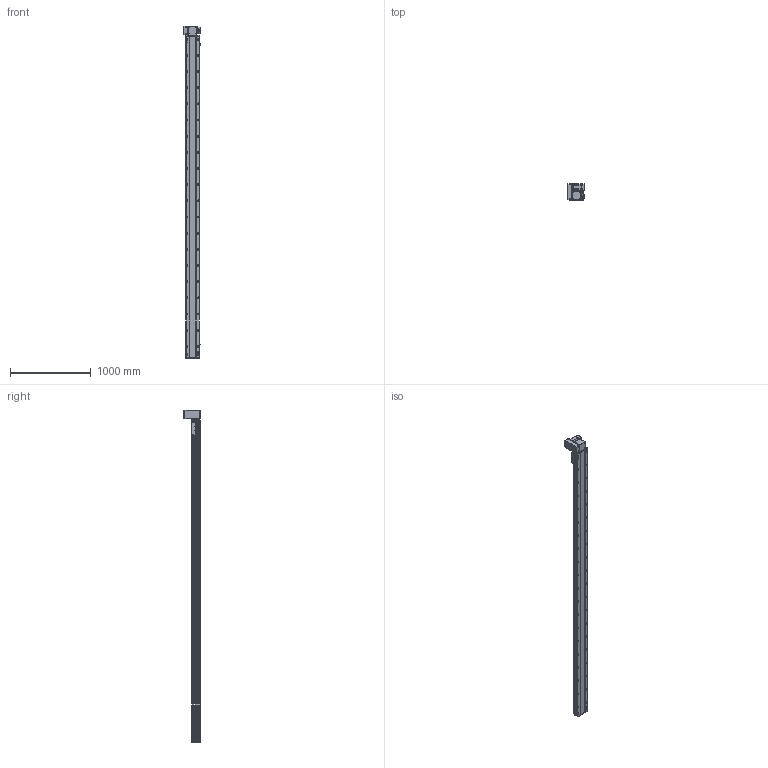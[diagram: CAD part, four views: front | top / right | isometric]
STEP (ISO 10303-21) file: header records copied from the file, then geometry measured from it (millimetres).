
FILE_DESCRIPTION (( 'STEP AP214' ), '1' );
FILE_NAME ('RTB17S-XX-3700-LW-M75-C4.STEP', '2025-12-12T01:24:07', ( '' ), ( '' ), 'SwSTEP 2.0', 'SolidWorks 2018', '' );
FILE_SCHEMA (( 'AUTOMOTIVE_DESIGN' ));
Length unit declared in the file: millimetre
Products named in the file (15): EE672^RTB17S-XX-XX-LW-M75-C4; RTB17-R-011菁釱^RTB17S-XX-XX-LW-M75-C4; RTB17S-L-004-賑釱^RTB17S-賑釱_RTB17S-XX-XX-LW-M75-C4; RTB17S-L-014-T20-P75--々湍釱^RTB17S-LW-々湍釱蚾饜-750W_RTB17S-XX-XX-LW-M75-C4; RTB22S-GY-017P^RTB17S-LW-々湍釱蚾饜-750W_RTB17S-XX-XX-LW-M75-C4; RTB22S-GY-008-M75--萇儂啣^RTB17S-LW-々湍釱蚾饜-750W_RTB17S-XX-XX-LW-M75-C4; RTB22S-GY-018P^RTB17S-LW-々湍釱蚾饜-750W_RTB17S-XX-XX-LW-M75-C4; RTB17S-L-007奻裔^RTB17S-XX-XX-LW-M75-C4; RTB17S-XX-3700-LW-M75-C4; RTB17S-LW-々湍釱蚾饜-750W^RTB17S-XX-XX-LW-M75-C4; RTB17S-賑釱^RTB17S-XX-XX-LW-M75-C4; 750W萇儂^RTB17S-XX-XX-LW-M75-C4; RTH13-BL-012覜茼え俋离^RTB17S-賑釱_RTB17S-XX-XX-LW-M75-C4; RTB17S-L-001-耜醱啣^RTB17S-XX-XX-LW-M75-C4; RTB22S-GY-005P^RTB17S-LW-々湍釱蚾饜-750W_RTB17S-XX-XX-LW-M75-C4
Assembly tree (17 placements, depth 3):
  RTB17S-XX-3700-LW-M75-C4
    RTB17-R-011菁釱^RTB17S-XX-XX-LW-M75-C4
    EE672^RTB17S-XX-XX-LW-M75-C4  x3
    RTB17S-L-001-耜醱啣^RTB17S-XX-XX-LW-M75-C4
    RTB17S-賑釱^RTB17S-XX-XX-LW-M75-C4
      RTB17S-L-004-賑釱^RTB17S-賑釱_RTB17S-XX-XX-LW-M75-C4
      RTH13-BL-012覜茼え俋离^RTB17S-賑釱_RTB17S-XX-XX-LW-M75-C4
    RTB17S-L-007奻裔^RTB17S-XX-XX-LW-M75-C4
    750W萇儂^RTB17S-XX-XX-LW-M75-C4
    RTB17S-LW-々湍釱蚾饜-750W^RTB17S-XX-XX-LW-M75-C4
      RTB17S-L-014-T20-P75--々湍釱^RTB17S-LW-々湍釱蚾饜-750W_RTB17S-XX-XX-LW-M75-C4
      RTB22S-GY-005P^RTB17S-LW-々湍釱蚾饜-750W_RTB17S-XX-XX-LW-M75-C4
      RTB22S-GY-017P^RTB17S-LW-々湍釱蚾饜-750W_RTB17S-XX-XX-LW-M75-C4  x2
      RTB22S-GY-008-M75--萇儂啣^RTB17S-LW-々湍釱蚾饜-750W_RTB17S-XX-XX-LW-M75-C4
      RTB22S-GY-018P^RTB17S-LW-々湍釱蚾饜-750W_RTB17S-XX-XX-LW-M75-C4
Bounding box: 210.4 x 201.5 x 4107.5 mm (x, y, z)
Volume: 29076646.8 mm3; surface area: 5388307.3 mm2
Topology: 17 solids, 17 shells, 2313 faces, 6538 edges, 4238 vertices
Faces by surface type: plane 998, cylinder 899, bspline 294, cone 110, sphere 8, torus 4
Entity records: 68854 total; most frequent: CARTESIAN_POINT 20602, ORIENTED_EDGE 9920, DIRECTION 9122, EDGE_CURVE 4960, AXIS2_PLACEMENT_3D 3258, VERTEX_POINT 3242, VECTOR 2606, LINE 2606
